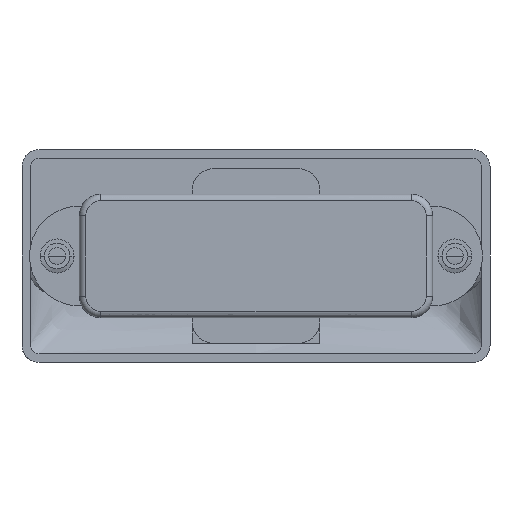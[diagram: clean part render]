
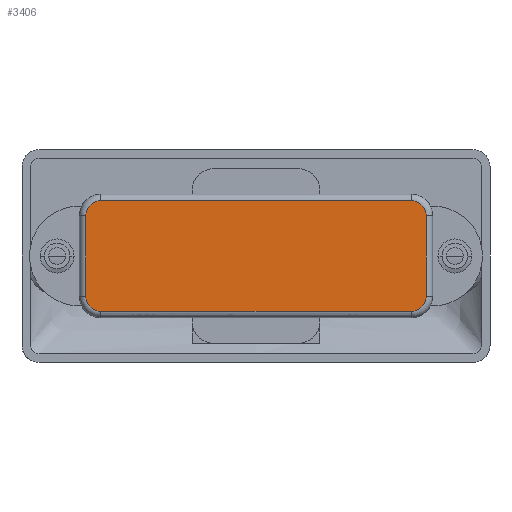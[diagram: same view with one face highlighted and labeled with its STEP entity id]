
A CAD part, front view. The second image highlights one B-rep face of the part: STEP entity #3406.
In plain terms, the highlighted planar face has unit normal (0, -1, 0).
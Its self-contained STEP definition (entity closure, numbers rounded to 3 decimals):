
#39 = VERTEX_POINT ( 'NONE', #8269 ) ;
#304 = CARTESIAN_POINT ( 'NONE',  ( -40., -11., -9.5 ) ) ;
#307 = CIRCLE ( 'NONE', #7226, 3.5 ) ;
#419 = VERTEX_POINT ( 'NONE', #7653 ) ;
#564 = DIRECTION ( 'NONE',  ( 0., -1., 0. ) ) ;
#722 = EDGE_CURVE ( 'NONE', #4669, #419, #307, .T. ) ;
#1102 = VECTOR ( 'NONE', #7430, 1000. ) ;
#1452 = CARTESIAN_POINT ( 'NONE',  ( -36.5, -11., 9.5 ) ) ;
#1611 = CIRCLE ( 'NONE', #8366, 3.5 ) ;
#1866 = VERTEX_POINT ( 'NONE', #3058 ) ;
#2011 = CARTESIAN_POINT ( 'NONE',  ( -36.5, -11., -13. ) ) ;
#2060 = EDGE_CURVE ( 'NONE', #8523, #1866, #9196, .T. ) ;
#2109 = ORIENTED_EDGE ( 'NONE', *, *, #2060, .T. ) ;
#2292 = CARTESIAN_POINT ( 'NONE',  ( 40., -11., 9.5 ) ) ;
#2356 = CIRCLE ( 'NONE', #7191, 3.5 ) ;
#2526 = DIRECTION ( 'NONE',  ( 0., 0., -1. ) ) ;
#2555 = CARTESIAN_POINT ( 'NONE',  ( -36.5, -11., -9.5 ) ) ;
#3058 = CARTESIAN_POINT ( 'NONE',  ( 40., -11., 9.5 ) ) ;
#3063 = DIRECTION ( 'NONE',  ( 0., 0., -1. ) ) ;
#3406 = ADVANCED_FACE ( 'NONE', ( #6584 ), #7338, .T. ) ;
#3425 = VECTOR ( 'NONE', #4489, 1000. ) ;
#3569 = DIRECTION ( 'NONE',  ( -1., 0., 0. ) ) ;
#3622 = LINE ( 'NONE', #3777, #4219 ) ;
#3777 = CARTESIAN_POINT ( 'NONE',  ( -36.5, -11., 13. ) ) ;
#4064 = DIRECTION ( 'NONE',  ( 0., 0., -1. ) ) ;
#4219 = VECTOR ( 'NONE', #3569, 1000. ) ;
#4384 = CARTESIAN_POINT ( 'NONE',  ( 36.5, -11., -9.5 ) ) ;
#4489 = DIRECTION ( 'NONE',  ( 1., 0., 0. ) ) ;
#4514 = DIRECTION ( 'NONE',  ( 0., -1., 0. ) ) ;
#4531 = EDGE_CURVE ( 'NONE', #7923, #39, #7515, .T. ) ;
#4669 = VERTEX_POINT ( 'NONE', #6518 ) ;
#4819 = VECTOR ( 'NONE', #2526, 1000. ) ;
#5167 = DIRECTION ( 'NONE',  ( 0., 0., -1. ) ) ;
#5170 = ORIENTED_EDGE ( 'NONE', *, *, #4531, .T. ) ;
#5342 = CARTESIAN_POINT ( 'NONE',  ( -36.5, -11., -9.5 ) ) ;
#5513 = EDGE_CURVE ( 'NONE', #1866, #7733, #6957, .T. ) ;
#5607 = CARTESIAN_POINT ( 'NONE',  ( -40., -11., -9.5 ) ) ;
#5738 = CARTESIAN_POINT ( 'NONE',  ( 40., -11., -9.5 ) ) ;
#5824 = DIRECTION ( 'NONE',  ( 0., -1., 0. ) ) ;
#6020 = EDGE_CURVE ( 'NONE', #7733, #4669, #3622, .T. ) ;
#6157 = AXIS2_PLACEMENT_3D ( 'NONE', #8296, #5824, #5167 ) ;
#6278 = ORIENTED_EDGE ( 'NONE', *, *, #9512, .T. ) ;
#6518 = CARTESIAN_POINT ( 'NONE',  ( -36.5, -11., 13. ) ) ;
#6584 = FACE_OUTER_BOUND ( 'NONE', #9586, .T. ) ;
#6957 = CIRCLE ( 'NONE', #6157, 3.5 ) ;
#7191 = AXIS2_PLACEMENT_3D ( 'NONE', #4384, #564, #7666 ) ;
#7226 = AXIS2_PLACEMENT_3D ( 'NONE', #1452, #4514, #7591 ) ;
#7338 = PLANE ( 'NONE',  #9314 ) ;
#7363 = EDGE_CURVE ( 'NONE', #39, #8523, #2356, .T. ) ;
#7430 = DIRECTION ( 'NONE',  ( 0., 0., 1. ) ) ;
#7515 = LINE ( 'NONE', #9075, #3425 ) ;
#7560 = DIRECTION ( 'NONE',  ( 0., -1., 0. ) ) ;
#7591 = DIRECTION ( 'NONE',  ( 0., 0., -1. ) ) ;
#7653 = CARTESIAN_POINT ( 'NONE',  ( -40., -11., 9.5 ) ) ;
#7666 = DIRECTION ( 'NONE',  ( 0., 0., -1. ) ) ;
#7733 = VERTEX_POINT ( 'NONE', #8774 ) ;
#7815 = ORIENTED_EDGE ( 'NONE', *, *, #6020, .T. ) ;
#7923 = VERTEX_POINT ( 'NONE', #2011 ) ;
#8269 = CARTESIAN_POINT ( 'NONE',  ( 36.5, -11., -13. ) ) ;
#8296 = CARTESIAN_POINT ( 'NONE',  ( 36.5, -11., 9.5 ) ) ;
#8366 = AXIS2_PLACEMENT_3D ( 'NONE', #5342, #7560, #3063 ) ;
#8523 = VERTEX_POINT ( 'NONE', #5738 ) ;
#8714 = ORIENTED_EDGE ( 'NONE', *, *, #9329, .T. ) ;
#8774 = CARTESIAN_POINT ( 'NONE',  ( 36.5, -11., 13. ) ) ;
#8871 = ORIENTED_EDGE ( 'NONE', *, *, #722, .T. ) ;
#9075 = CARTESIAN_POINT ( 'NONE',  ( 36.5, -11., -13. ) ) ;
#9196 = LINE ( 'NONE', #2292, #1102 ) ;
#9199 = ORIENTED_EDGE ( 'NONE', *, *, #7363, .T. ) ;
#9314 = AXIS2_PLACEMENT_3D ( 'NONE', #2555, #9602, #4064 ) ;
#9329 = EDGE_CURVE ( 'NONE', #419, #9810, #9895, .T. ) ;
#9512 = EDGE_CURVE ( 'NONE', #9810, #7923, #1611, .T. ) ;
#9585 = ORIENTED_EDGE ( 'NONE', *, *, #5513, .T. ) ;
#9586 = EDGE_LOOP ( 'NONE', ( #8714, #6278, #5170, #9199, #2109, #9585, #7815, #8871 ) ) ;
#9602 = DIRECTION ( 'NONE',  ( 0., -1., 0. ) ) ;
#9810 = VERTEX_POINT ( 'NONE', #304 ) ;
#9895 = LINE ( 'NONE', #5607, #4819 ) ;
